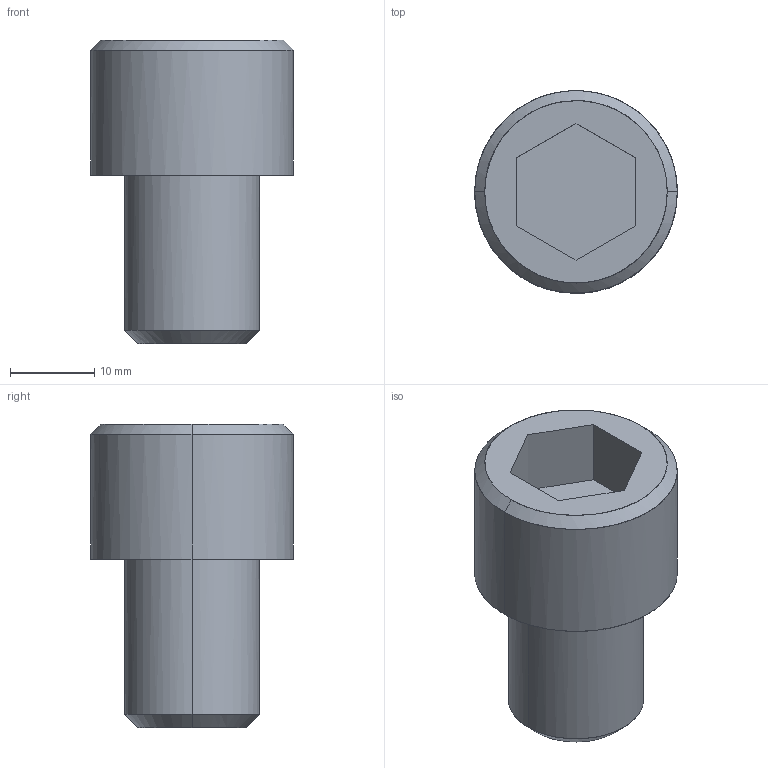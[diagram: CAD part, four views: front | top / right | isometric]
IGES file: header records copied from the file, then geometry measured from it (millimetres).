
Global section: file name: E:\UnigraphicsGraphicData\MISUMI_PRESS-PARTS\IGES\3d_cb16-20_00446_r00.igs; native system: NX V5.0; preprocessor: UGS NX IGES V5.0; author: MISUMI; date: 20110105.160146; units: millimetre
Bounding box: 24 x 24 x 36 mm (x, y, z)
Surface area: 3401.6 mm2 (no closed solid volume)
Topology: 0 solids, 0 shells, 18 faces, 100 edges, 100 vertices
Faces by surface type: bspline 18
